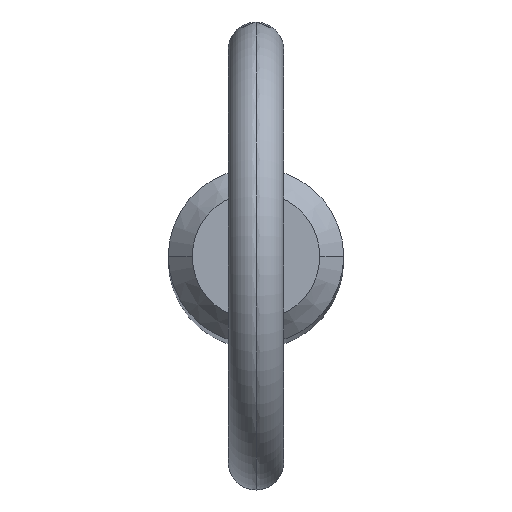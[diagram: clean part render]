
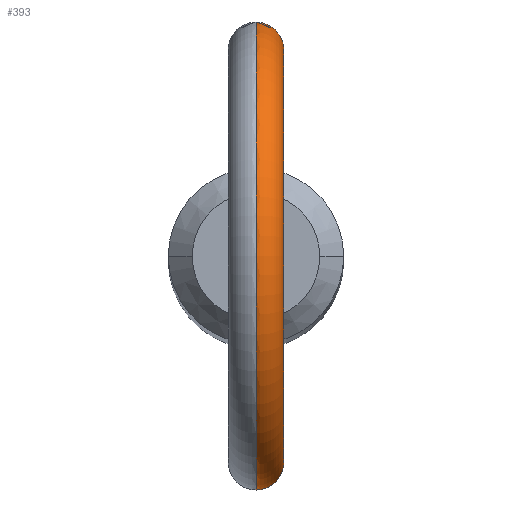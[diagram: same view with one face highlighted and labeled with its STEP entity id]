
A CAD part, top view. The second image highlights one B-rep face of the part: STEP entity #393.
In plain terms, the highlighted toroidal (fillet/blend) face has major radius 11.2 mm and minor radius 1.5 mm.
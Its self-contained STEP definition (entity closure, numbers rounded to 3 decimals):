
#3 = B_SPLINE_CURVE_WITH_KNOTS ( 'NONE', 3,
 ( #378, #133, #180, #297, #135, #465, #421, #466, #99, #20, #98, #429, #299, #65, #17, #331, #340, #23, #296, #137, #60, #423, #380, #471, #96, #16, #470, #382, #220, #181 ),
 .UNSPECIFIED., .F., .F.,
 ( 4, 2, 2, 2, 2, 2, 2, 2, 2, 2, 2, 2, 2, 2, 4 ),
 ( 0.004, 0.005, 0.005, 0.005, 0.006, 0.006, 0.007, 0.007, 0.007, 0.007, 0.008, 0.008, 0.009, 0.009, 0.009 ),
 .UNSPECIFIED. ) ;
#16 = CARTESIAN_POINT ( 'NONE',  ( 0.512, -4.733, 125.508 ) ) ;
#17 = CARTESIAN_POINT ( 'NONE',  ( 1.492, -4.52, 127.148 ) ) ;
#20 = CARTESIAN_POINT ( 'NONE',  ( 1.19, -4.611, 128.024 ) ) ;
#23 = CARTESIAN_POINT ( 'NONE',  ( 1.473, -4.526, 126.631 ) ) ;
#37 = CARTESIAN_POINT ( 'NONE',  ( 1.508, 4.515, 126.837 ) ) ;
#40 = CARTESIAN_POINT ( 'NONE',  ( 0.685, 4.711, 128.536 ) ) ;
#60 = CARTESIAN_POINT ( 'NONE',  ( 1.344, -4.567, 126.239 ) ) ;
#63 = CARTESIAN_POINT ( 'NONE',  ( 0., 4.76, 128.748 ) ) ;
#65 = CARTESIAN_POINT ( 'NONE',  ( 1.478, -4.525, 127.252 ) ) ;
#78 = CARTESIAN_POINT ( 'NONE',  ( 1.292, 4.582, 127.844 ) ) ;
#83 = VERTEX_POINT ( 'NONE', #63 ) ;
#96 = CARTESIAN_POINT ( 'NONE',  ( 0.797, -4.697, 125.629 ) ) ;
#98 = CARTESIAN_POINT ( 'NONE',  ( 1.293, -4.582, 127.842 ) ) ;
#99 = CARTESIAN_POINT ( 'NONE',  ( 0.997, -4.655, 128.264 ) ) ;
#103 = CARTESIAN_POINT ( 'NONE',  ( 1.343, 4.567, 126.237 ) ) ;
#108 = VERTEX_POINT ( 'NONE', #141 ) ;
#109 = CARTESIAN_POINT ( 'NONE',  ( 1.484, 4.523, 126.628 ) ) ;
#112 = CARTESIAN_POINT ( 'NONE',  ( 1.188, 4.611, 128.027 ) ) ;
#119 = EDGE_CURVE ( 'NONE', #259, #108, #3, .T. ) ;
#133 = CARTESIAN_POINT ( 'NONE',  ( 0.104, -4.76, 128.748 ) ) ;
#135 = CARTESIAN_POINT ( 'NONE',  ( 0.506, -4.734, 128.637 ) ) ;
#137 = CARTESIAN_POINT ( 'NONE',  ( 1.385, -4.554, 126.332 ) ) ;
#141 = CARTESIAN_POINT ( 'NONE',  ( 0., -4.76, 125.426 ) ) ;
#144 = CARTESIAN_POINT ( 'NONE',  ( 0., 4.76, 125.426 ) ) ;
#145 = CARTESIAN_POINT ( 'NONE',  ( 0.411, 4.743, 125.477 ) ) ;
#149 = EDGE_LOOP ( 'NONE', ( #185, #263, #418, #235 ) ) ;
#154 = CARTESIAN_POINT ( 'NONE',  ( 0., 0., 137.2 ) ) ;
#159 = VERTEX_POINT ( 'NONE', #507 ) ;
#160 = DIRECTION ( 'NONE',  ( 0., 0., -1. ) ) ;
#180 = CARTESIAN_POINT ( 'NONE',  ( 0.209, -4.756, 128.734 ) ) ;
#181 = CARTESIAN_POINT ( 'NONE',  ( 0., -4.76, 125.426 ) ) ;
#185 = ORIENTED_EDGE ( 'NONE', *, *, #295, .F. ) ;
#186 = CARTESIAN_POINT ( 'NONE',  ( 1.239, 4.596, 126.059 ) ) ;
#187 = CARTESIAN_POINT ( 'NONE',  ( 1.177, 4.613, 125.975 ) ) ;
#190 = CARTESIAN_POINT ( 'NONE',  ( 0.207, 4.757, 125.436 ) ) ;
#196 = CARTESIAN_POINT ( 'NONE',  ( 1.441, 4.537, 127.459 ) ) ;
#220 = CARTESIAN_POINT ( 'NONE',  ( 0.105, -4.76, 125.426 ) ) ;
#232 = CARTESIAN_POINT ( 'NONE',  ( 1.385, 4.554, 126.33 ) ) ;
#235 = ORIENTED_EDGE ( 'NONE', *, *, #394, .F. ) ;
#240 = DIRECTION ( 'NONE',  ( 1., 0., 0. ) ) ;
#244 = FACE_OUTER_BOUND ( 'NONE', #149, .T. ) ;
#259 = VERTEX_POINT ( 'NONE', #309 ) ;
#263 = ORIENTED_EDGE ( 'NONE', *, *, #323, .T. ) ;
#264 = AXIS2_PLACEMENT_3D ( 'NONE', #342, #240, #431 ) ;
#265 = CARTESIAN_POINT ( 'NONE',  ( 0., 4.76, 128.748 ) ) ;
#266 = CARTESIAN_POINT ( 'NONE',  ( 0.925, 4.67, 128.34 ) ) ;
#295 = EDGE_CURVE ( 'NONE', #159, #83, #391, .T. ) ;
#296 = CARTESIAN_POINT ( 'NONE',  ( 1.45, -4.534, 126.528 ) ) ;
#297 = CARTESIAN_POINT ( 'NONE',  ( 0.409, -4.743, 128.678 ) ) ;
#299 = CARTESIAN_POINT ( 'NONE',  ( 1.434, -4.539, 127.454 ) ) ;
#302 = CARTESIAN_POINT ( 'NONE',  ( 0.415, 4.745, 128.688 ) ) ;
#309 = CARTESIAN_POINT ( 'NONE',  ( 0., -4.76, 128.748 ) ) ;
#323 = EDGE_CURVE ( 'NONE', #159, #108, #373, .T. ) ;
#331 = CARTESIAN_POINT ( 'NONE',  ( 1.503, -4.517, 126.94 ) ) ;
#340 = CARTESIAN_POINT ( 'NONE',  ( 1.499, -4.518, 126.837 ) ) ;
#342 = CARTESIAN_POINT ( 'NONE',  ( 0., 0., 137.2 ) ) ;
#343 = TOROIDAL_SURFACE ( 'NONE', #489, 11.2, 1.5 ) ;
#344 = CARTESIAN_POINT ( 'NONE',  ( 1.487, 4.522, 127.253 ) ) ;
#346 = CARTESIAN_POINT ( 'NONE',  ( 0.968, 4.663, 125.749 ) ) ;
#347 = CIRCLE ( 'NONE', #449, 9.7 ) ;
#349 = CARTESIAN_POINT ( 'NONE',  ( 0.104, 4.76, 125.426 ) ) ;
#354 = DIRECTION ( 'NONE',  ( 1., 0., 0. ) ) ;
#373 = CIRCLE ( 'NONE', #264, 12.7 ) ;
#378 = CARTESIAN_POINT ( 'NONE',  ( 0., -4.76, 128.748 ) ) ;
#380 = CARTESIAN_POINT ( 'NONE',  ( 1.178, -4.613, 125.976 ) ) ;
#382 = CARTESIAN_POINT ( 'NONE',  ( 0.208, -4.757, 125.436 ) ) ;
#385 = CARTESIAN_POINT ( 'NONE',  ( 0.511, 4.733, 125.508 ) ) ;
#391 = B_SPLINE_CURVE_WITH_KNOTS ( 'NONE', 3,
 ( #144, #349, #190, #145, #385, #432, #346, #187, #186, #103, #232, #109, #37, #344, #196, #78, #112, #516, #266, #487, #40, #302, #475, #265 ),
 .UNSPECIFIED., .F., .F.,
 ( 4, 2, 2, 2, 2, 2, 2, 2, 2, 2, 2, 4 ),
 ( 0.001, 0.001, 0.001, 0.002, 0.002, 0.002, 0.003, 0.004, 0.004, 0.005, 0.005, 0.006 ),
 .UNSPECIFIED. ) ;
#393 = ADVANCED_FACE ( 'NONE', ( #244 ), #343, .T. ) ;
#394 = EDGE_CURVE ( 'NONE', #83, #259, #347, .T. ) ;
#399 = CARTESIAN_POINT ( 'NONE',  ( 0., 0., 137.2 ) ) ;
#418 = ORIENTED_EDGE ( 'NONE', *, *, #119, .F. ) ;
#421 = CARTESIAN_POINT ( 'NONE',  ( 0.77, -4.698, 128.475 ) ) ;
#423 = CARTESIAN_POINT ( 'NONE',  ( 1.24, -4.596, 126.06 ) ) ;
#429 = CARTESIAN_POINT ( 'NONE',  ( 1.404, -4.548, 127.553 ) ) ;
#431 = DIRECTION ( 'NONE',  ( 0., 0., -1. ) ) ;
#432 = CARTESIAN_POINT ( 'NONE',  ( 0.795, 4.697, 125.628 ) ) ;
#449 = AXIS2_PLACEMENT_3D ( 'NONE', #154, #354, #497 ) ;
#465 = CARTESIAN_POINT ( 'NONE',  ( 0.687, -4.711, 128.535 ) ) ;
#466 = CARTESIAN_POINT ( 'NONE',  ( 0.925, -4.67, 128.339 ) ) ;
#470 = CARTESIAN_POINT ( 'NONE',  ( 0.411, -4.743, 125.477 ) ) ;
#471 = CARTESIAN_POINT ( 'NONE',  ( 0.97, -4.662, 125.75 ) ) ;
#475 = CARTESIAN_POINT ( 'NONE',  ( 0.208, 4.76, 128.748 ) ) ;
#487 = CARTESIAN_POINT ( 'NONE',  ( 0.771, 4.698, 128.475 ) ) ;
#488 = DIRECTION ( 'NONE',  ( 1., 0., 0. ) ) ;
#489 = AXIS2_PLACEMENT_3D ( 'NONE', #399, #488, #160 ) ;
#497 = DIRECTION ( 'NONE',  ( 0., 0., -1. ) ) ;
#507 = CARTESIAN_POINT ( 'NONE',  ( 0., 4.76, 125.426 ) ) ;
#516 = CARTESIAN_POINT ( 'NONE',  ( 0.996, 4.655, 128.266 ) ) ;
